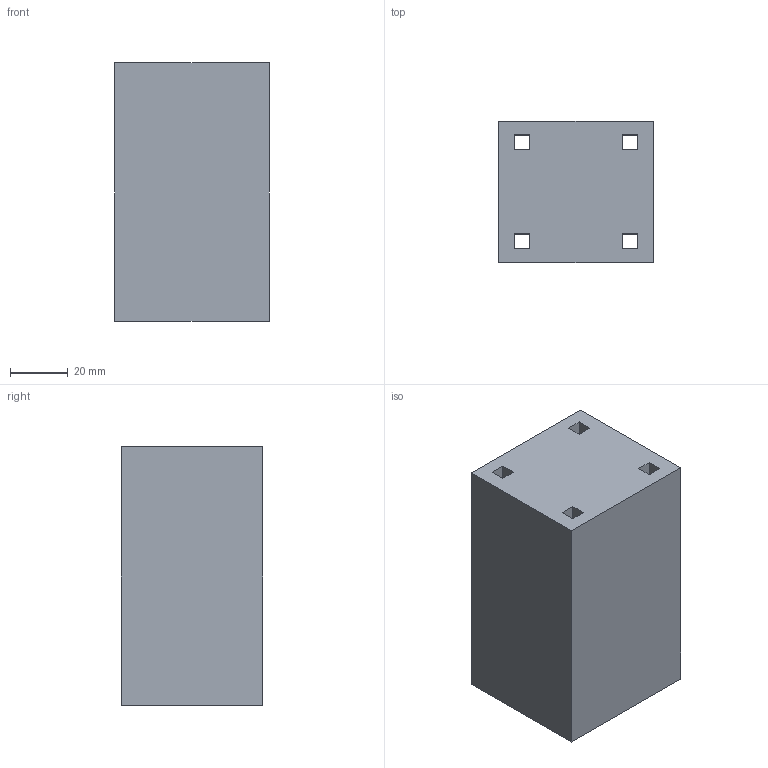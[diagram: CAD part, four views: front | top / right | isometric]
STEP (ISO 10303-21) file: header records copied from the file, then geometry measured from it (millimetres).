
FILE_DESCRIPTION(('Mechanical CAD reference from nasji.com'),'2;1');
FILE_NAME('NASJI.step','',(''),(''),'','NASJI distribution','');
FILE_SCHEMA(('AUTOMOTIVE_DESIGN { 1 0 10303 214 1 1 1 1 }'));
Length unit declared in the file: millimetre
Products named in the file (1): Open CASCADE STEP translator 7.8 12
Bounding box: 53.41 x 49 x 89.6 mm (x, y, z)
Volume: 224800.1 mm3; surface area: 30824.5 mm2
Topology: 1 solids, 1 shells, 22 faces, 60 edges, 40 vertices
Faces by surface type: plane 22
Entity records: 1442 total; most frequent: CARTESIAN_POINT 291, DIRECTION 178, LINE 132, VECTOR 132, ORIENTED_EDGE 120, PCURVE 120, DEFINITIONAL_REPRESENTATION 120, EDGE_CURVE 60
